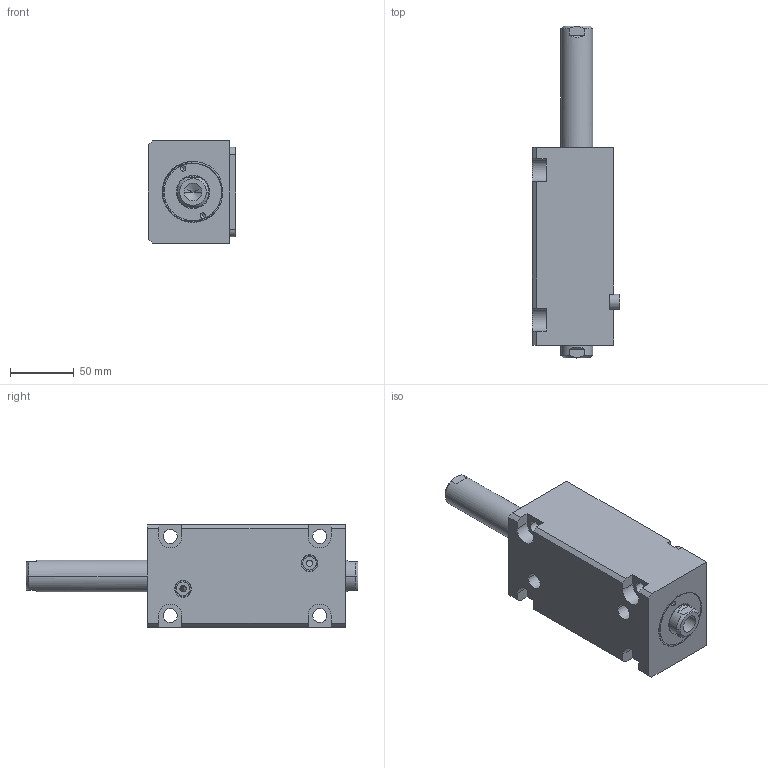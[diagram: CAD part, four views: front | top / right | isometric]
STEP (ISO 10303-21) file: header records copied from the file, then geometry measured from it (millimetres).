
FILE_DESCRIPTION (( 'STEP AP214' ), '1' );
FILE_NAME ('chtb-lw40x85_asm.STEP', '2018-06-05T02:29:57', ( 'Windows' ), ( 'Microsoft' ), 'SwSTEP 2.0', 'SolidWorks 2015', '' );
FILE_SCHEMA (( 'AUTOMOTIVE_DESIGN' ));
Length unit declared in the file: millimetre
Products named in the file (5): CHTB-LA40PJ; chtb-lw40x85_asm; CHTB-SW40X85NHSG; CHTB-SD40QG; CHTB-LW40X85NBT
Assembly tree (4 placements, depth 2):
  chtb-lw40x85_asm
    CHTB-LA40PJ
    CHTB-LW40X85NBT
    CHTB-SD40QG
    CHTB-SW40X85NHSG
Bounding box: 68.5 x 260 x 80 mm (x, y, z)
Volume: 735988.6 mm3; surface area: 120544.9 mm2
Topology: 4 solids, 4 shells, 172 faces, 462 edges, 304 vertices
Faces by surface type: cylinder 77, plane 52, cone 17, bspline 14, torus 12
Entity records: 10654 total; most frequent: CARTESIAN_POINT 6188, ORIENTED_EDGE 904, DIRECTION 853, EDGE_CURVE 452, AXIS2_PLACEMENT_3D 340, VERTEX_POINT 304, EDGE_LOOP 204, CIRCLE 175
